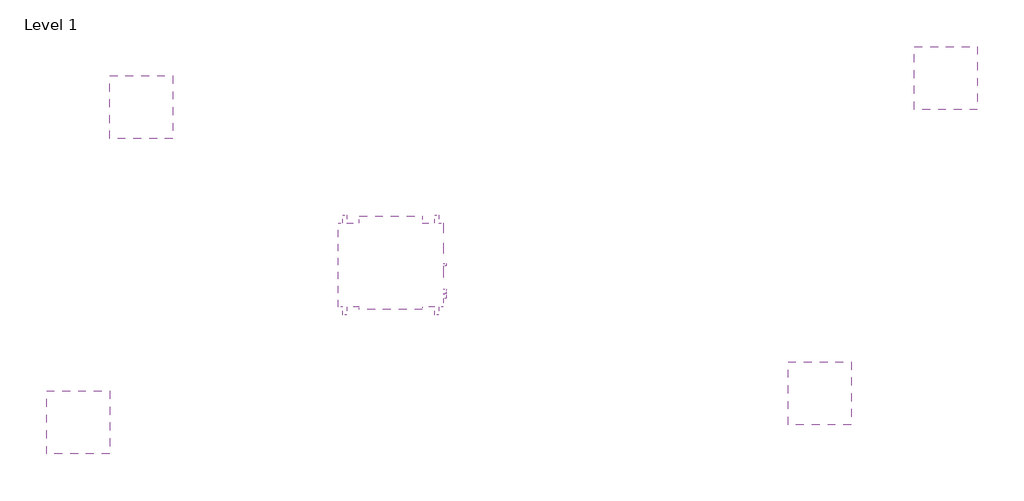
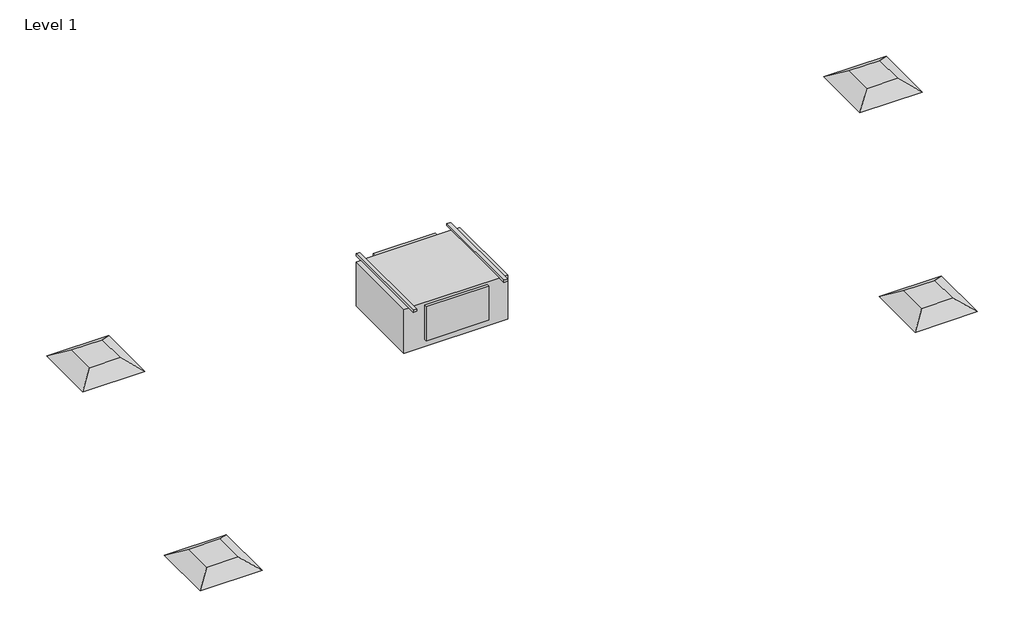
# One storey: 4 air terminals, 1 proxy.
"""IFC4 building model written with IfcOpenShell, lengths in millimetres."""

import ifcopenshell
import ifcopenshell.guid

model = None  # the IFC model being written
_history = None  # IfcOwnerHistory: only IFC2X3 demands one
_inside = {}  # id of a spatial element -> (the spatial element, [elements in it])
_under = {}  # id of a project, library or spatial element -> (it, [spatial elements below it])
_declared = {}  # id of a project -> (the project, [libraries it declares])
_typed = {}  # id of a type object -> (the type object, [elements of that type])
_made_of = {}  # id of a material, layer set ... -> (it, [elements and type objects made of it])


def new_model(schema):
    """Start an empty IFC model of exactly this schema.

    Asked for "IFC4X3", IfcOpenShell would pick the latest addendum, in which some entities
    have other attributes; the version numbers below select the first issue.
    IFC2X3 requires an IfcOwnerHistory on every rooted entity: one is made here for all.
    """
    global model, _history
    if schema == "IFC4X3":
        model = ifcopenshell.file(schema_version=(4, 3, 0, 0))
    else:
        model = ifcopenshell.file(schema=schema)
    _inside.clear()
    _under.clear()
    _declared.clear()
    _typed.clear()
    _made_of.clear()
    _history = None
    if model.schema == "IFC2X3":
        org = make("IfcOrganization", Name="unknown")
        user = make(
            "IfcPersonAndOrganization",
            ThePerson=make("IfcPerson", FamilyName="unknown"),
            TheOrganization=org,
        )
        app = make(
            "IfcApplication",
            ApplicationDeveloper=org,
            Version="unknown",
            ApplicationFullName="unknown",
            ApplicationIdentifier="unknown",
        )
        _history = make(
            "IfcOwnerHistory",
            OwningUser=user,
            OwningApplication=app,
            ChangeAction="ADDED",
            CreationDate=0,
        )
    return model


def make(cls, **values):
    """One entity of the class cls with the attributes given. An attribute that is None is left unset."""
    return model.create_entity(
        cls, **{name: value for name, value in values.items() if value is not None}
    )


def rooted(cls, **values):
    """An entity with a GlobalId (a new one), such as an element, a storey or a relation."""
    return make(cls, GlobalId=ifcopenshell.guid.new(), OwnerHistory=_history, **values)


def si_unit(unit_type, name, prefix=None):
    """IfcSIUnit, for example si_unit("LENGTHUNIT", "METRE", prefix="MILLI")."""
    return make("IfcSIUnit", UnitType=unit_type, Prefix=prefix, Name=name)


def assignment(units):
    """IfcUnitAssignment: the units of a project."""
    return None if units is None else make("IfcUnitAssignment", Units=units)


def point(xyz):
    """IfcCartesianPoint."""
    return None if xyz is None else make("IfcCartesianPoint", Coordinates=xyz)


def direction(xyz):
    """IfcDirection."""
    return None if xyz is None else make("IfcDirection", DirectionRatios=xyz)


def frame(location, z_axis=None, x_axis=None):
    """IfcAxis2Placement3D, a coordinate frame: its origin and axes. An axis left out is left unset."""
    return make(
        "IfcAxis2Placement3D",
        Location=point(location),
        Axis=direction(z_axis),
        RefDirection=direction(x_axis),
    )


def origin():
    """The frame at (0, 0, 0) with its axes left unset."""
    return frame((0.0, 0.0, 0.0))


def place(relative_to, where):
    """IfcLocalPlacement: puts the frame where relative to a parent placement (None: the world)."""
    return make(
        "IfcLocalPlacement", PlacementRelTo=relative_to, RelativePlacement=where
    )


def context(
    kind, dimensions, precision=None, world=None, true_north=None, identifier=None
):
    """IfcGeometricRepresentationContext, for example the 3D "Model" context."""
    return make(
        "IfcGeometricRepresentationContext",
        ContextIdentifier=identifier,
        ContextType=kind,
        CoordinateSpaceDimension=dimensions,
        Precision=precision,
        WorldCoordinateSystem=world,
        TrueNorth=true_north,
    )


def project(units=None, contexts=None):
    """IfcProject with its units and contexts."""
    return rooted(
        "IfcProject",
        Name="project",
        RepresentationContexts=contexts,
        UnitsInContext=assignment(units),
    )


def spatial(cls, under=None, at=None, **own):
    """A site, building, storey or space (cls), placed at a placement, below another one or the project."""
    s = rooted(cls, ObjectPlacement=at, **own)
    if under is not None:
        _under.setdefault(under.id(), (under, []))[1].append(s)
    return s


def circle_curve(where, radius):
    """IfcCircle in the frame where."""
    return make("IfcCircle", Position=where, Radius=radius)


def faces_of(points, faces, orient=None, outer=None):
    """IfcFace entities. A face is a list of loops; a loop is a list of indices into points, from 0.

    orient and outer hold one flag for each loop. By default every Orientation is true, the
    first loop of a face is its IfcFaceOuterBound and the others are IfcFaceBound.
    """
    made = []
    for i, loops in enumerate(faces):
        bounds = []
        for j, loop in enumerate(loops):
            is_outer = j == 0 if outer is None else outer[i][j]
            bounds.append(
                make(
                    "IfcFaceOuterBound" if is_outer else "IfcFaceBound",
                    Bound=make("IfcPolyLoop", Polygon=[points[k] for k in loop]),
                    Orientation=True if orient is None else orient[i][j],
                )
            )
        made.append(make("IfcFace", Bounds=bounds))
    return made


def faceted_brep(points, faces, orient=None, outer=None, voids=None):
    """IfcFacetedBrep: a solid bounded by flat faces; with voids (closed shells), ...WithVoids."""
    shared = [point(p) for p in points]
    hull = make("IfcClosedShell", CfsFaces=faces_of(shared, faces, orient, outer))
    if voids is None:
        return make("IfcFacetedBrep", Outer=hull)
    return make(
        "IfcFacetedBrepWithVoids",
        Outer=hull,
        Voids=[
            make(cls, CfsFaces=faces_of(shared, fs, o, b)) for cls, fs, o, b in voids
        ],
    )


def shape(context_of_items, identifier, shape_type, items):
    """IfcShapeRepresentation: the items that make up one representation, for example the "Body"."""
    return make(
        "IfcShapeRepresentation",
        ContextOfItems=context_of_items,
        RepresentationIdentifier=identifier,
        RepresentationType=shape_type,
        Items=items,
    )


def source(mapping_origin, context_of_items, identifier, shape_type, items):
    """IfcRepresentationMap: a shape defined once, which mapped items show again and again."""
    return make(
        "IfcRepresentationMap",
        MappingOrigin=mapping_origin,
        MappedRepresentation=shape(context_of_items, identifier, shape_type, items),
    )


def transform(
    local_origin,
    x_axis=None,
    y_axis=None,
    z_axis=None,
    scale=None,
    scale2=None,
    scale3=None,
    uniform=True,
):
    """IfcCartesianTransformationOperator3D, or its non-uniform kind. x_axis, y_axis, z_axis: its Axis1, 2, 3."""
    if uniform:
        return make(
            "IfcCartesianTransformationOperator3D",
            Axis1=direction(x_axis),
            Axis2=direction(y_axis),
            LocalOrigin=point(local_origin),
            Scale=scale,
            Axis3=direction(z_axis),
        )
    return make(
        "IfcCartesianTransformationOperator3DnonUniform",
        Axis1=direction(x_axis),
        Axis2=direction(y_axis),
        LocalOrigin=point(local_origin),
        Scale=scale,
        Axis3=direction(z_axis),
        Scale2=scale2,
        Scale3=scale3,
    )


def mapped(mapping_source, mapping_target):
    """IfcMappedItem: shows the shape of a source again, moved by a transform."""
    return make(
        "IfcMappedItem", MappingSource=mapping_source, MappingTarget=mapping_target
    )


def made_of(thing, what):
    """Note that an element or type object is made of a material, layer set ...; save() writes the relation."""
    if what is not None:
        _made_of.setdefault(what.id(), (what, []))[1].append(thing)
    return thing


def element(
    cls,
    number,
    at=None,
    inside=None,
    cuts=None,
    type_object=None,
    material=None,
    context=None,
    identifier="Body",
    shape_type=None,
    held_by="IfcProductDefinitionShape",
    body=None,
    shapes=None,
    **own,
):
    """One element of the class cls, such as IfcWall. Its Tag is "e" and its number.

    at: its placement. inside: the storey or other place that contains it. cuts: it is an
    opening in that element (IfcRelVoidsElement). A single representation is given by context,
    identifier, shape_type and body (its items); several are given by shapes. held_by: the class
    of the entity that holds the representations. save() writes the other relations.
    """
    e = rooted(cls, Tag="e%d" % number, ObjectPlacement=at, **own)
    if body is not None:
        shapes = [shape(context, identifier, shape_type, body)]
    if shapes is not None:
        e.Representation = make(held_by, Representations=shapes)
    if inside is not None:
        _inside.setdefault(inside.id(), (inside, []))[1].append(e)
    if cuts is not None:
        rooted(
            "IfcRelVoidsElement", RelatingBuildingElement=cuts, RelatedOpeningElement=e
        )
    if type_object is not None:
        _typed.setdefault(type_object.id(), (type_object, []))[1].append(e)
    return made_of(e, material)


def aggregate(whole, parts):
    """IfcRelAggregates: a whole, such as a stair, and the parts it consists of."""
    return rooted("IfcRelAggregates", RelatingObject=whole, RelatedObjects=parts)


def save(model, path):
    """Write the relations noted so far, then the file.

    IfcRelAggregates (storeys below a building ...), IfcRelContainedInSpatialStructure (elements
    in a storey), IfcRelDefinesByType, IfcRelAssociatesMaterial and IfcRelDeclares: one each for
    every whole, place, type object, material and project.
    """
    for whole, parts in _under.values():
        aggregate(whole, parts)
    for where, things in _inside.values():
        rooted(
            "IfcRelContainedInSpatialStructure",
            RelatedElements=things,
            RelatingStructure=where,
        )
    for kind, things in _typed.values():
        rooted("IfcRelDefinesByType", RelatedObjects=things, RelatingType=kind)
    for what, things in _made_of.values():
        rooted("IfcRelAssociatesMaterial", RelatedObjects=things, RelatingMaterial=what)
    for by, libraries in _declared.values():
        rooted("IfcRelDeclares", RelatingContext=by, RelatedDefinitions=libraries)
    model.write(path)


def plane_surface(at):
    """IfcPlane: the flat surface through the origin of the frame at, square to its z axis."""
    return make("IfcPlane", Position=at)


def cylinder_surface(at, radius):
    """IfcCylindricalSurface: all points at the distance radius from the z axis of the frame at."""
    return make("IfcCylindricalSurface", Position=at, Radius=radius)


def advanced_brep(points, edges, surfaces, faces):
    """IfcAdvancedBrep: a solid bounded by faces that lie on surfaces and meet in shared edges.

    An edge is (start, end): straight between two places in points (the first is 0);
    or (start, end, curve); or (start, end, curve, False) where it runs against its curve.
    A face is (place in surfaces, loops), or (place, loops, False) where it looks against
    its surface's normal. A loop lists edges by number (the first is 1), with a minus sign
    where the edge is run from its end to its start. The first loop is the outer one.
    """
    corners = [point(p) for p in points]
    vertices = [make("IfcVertexPoint", VertexGeometry=c) for c in corners]
    made = []
    for start, end, *more in edges:
        made.append(
            make(
                "IfcEdgeCurve",
                EdgeStart=vertices[start],
                EdgeEnd=vertices[end],
                EdgeGeometry=more[0] if more else make("IfcPolyline", Points=[corners[start], corners[end]]),
                SameSense=more[1] if len(more) > 1 else True,
            )
        )
    hull = []
    for where, loops, *sense in faces:
        bounds = []
        for j, loop in enumerate(loops):
            ring = [make("IfcOrientedEdge", EdgeElement=made[abs(k) - 1], Orientation=k > 0) for k in loop]
            bounds.append(
                make(
                    "IfcFaceOuterBound" if j == 0 else "IfcFaceBound",
                    Bound=make("IfcEdgeLoop", EdgeList=ring),
                    Orientation=True,
                )
            )
        hull.append(make("IfcAdvancedFace", Bounds=bounds, FaceSurface=surfaces[where], SameSense=sense[0] if sense else True))
    return make("IfcAdvancedBrep", Outer=make("IfcClosedShell", CfsFaces=hull))


def return_diffuser_24_x_24_face_12_x_12_connection_ff543d60(model_context):
    return source(origin(), model_context, "Body", "Brep", [
        faceted_brep([(152.4, 152.4, 101.6), (-152.4, 152.4, 101.6), (-152.4, -152.4, 101.6), (152.4, -152.4, 101.6), (304.8, 304.8, 0.0), (304.8, -304.8, 0.0), (-304.8, -304.8, 0.0), (-304.8, 304.8, 0.0)], [[[0, 1, 2, 3]], [[4, 5, 6, 7]], [[4, 7, 1, 0]], [[7, 6, 2, 1]], [[6, 5, 3, 2]], [[5, 4, 0, 3]]]),
    ])


def return_diffuser_24_x_24_face_12_x_12_connection_0d699246(model_context):
    return source(origin(), model_context, "Body", "Brep", [
        faceted_brep([(152.4, -152.4, 101.6), (152.4, 152.4, 101.6), (-152.4, 152.4, 101.6), (-152.4, -152.4, 101.6), (304.8, -304.8, 0.0), (-304.8, -304.8, 0.0), (-304.8, 304.8, 0.0), (304.8, 304.8, 0.0)], [[[0, 1, 2, 3]], [[4, 5, 6, 7]], [[4, 0, 3, 5]], [[5, 3, 2, 6]], [[6, 2, 1, 7]], [[7, 1, 0, 4]]]),
    ])


def fan_coil_unit_ceiling_ducted_chw_1000_cfm_fb4dfb87(model_context):
    return source(origin(), model_context, "Body", "AdvancedBrep", [
        advanced_brep(
        [(82.55, 889.0, 479.425), (44.45, 889.0, 479.425), (44.45, -76.2, 479.425), (82.55, -76.2, 479.425), (82.55, -76.2, 457.2), (44.45, -76.2, 457.2), (44.45, 0.0, 457.2), (82.55, 0.0, 457.2), (44.45, 889.0, 457.2), (82.55, 889.0, 457.2), (82.55, 812.8, 457.2), (44.45, 812.8, 457.2), (971.55, 889.0, 479.425), (933.45, 889.0, 479.425), (933.45, -76.2, 479.425), (971.55, -76.2, 479.425), (971.55, -76.2, 457.2), (933.45, -76.2, 457.2), (933.45, 0.0, 457.2), (971.55, 0.0, 457.2), (933.45, 889.0, 457.2), (971.55, 889.0, 457.2), (971.55, 812.8, 457.2), (933.45, 812.8, 457.2), (1041.4, 130.175, 381.0), (1041.4, 174.625, 381.0), (1016.0, 130.175, 381.0), (1016.0, 174.625, 381.0), (1041.4, 79.375, 101.6), (1041.4, 123.825, 101.6), (1016.0, 79.375, 101.6), (1016.0, 123.825, 101.6), (1041.4, 395.2875, 38.1), (1041.4, 417.5125, 38.1), (1016.0, 395.2875, 38.1), (1016.0, 417.5125, 38.1), (0.0, 812.8, 457.2), (0.0, 0.0, 457.2), (1016.0, 0.0, 457.2), (1016.0, 812.8, 457.2), (1016.0, 812.8, 0.0), (1016.0, 0.0, 0.0), (0.0, 0.0, 0.0), (0.0, 812.8, 0.0), (812.8, 812.8, 431.8), (203.2, 812.8, 431.8), (203.2, 812.8, 76.2), (812.8, 812.8, 76.2), (203.2, 0.0, 431.8), (812.8, 0.0, 431.8), (812.8, 0.0, 76.2), (203.2, 0.0, 76.2), (812.8, 876.3, 431.8), (203.2, 876.3, 431.8), (812.8, 876.3, 76.2), (203.2, 876.3, 76.2), (203.2, -25.4, 431.8), (812.8, -25.4, 431.8), (812.8, -25.4, 76.2), (203.2, -25.4, 76.2)],
        [
            (0, 1),
            (1, 2),
            (2, 3),
            (3, 0),
            (4, 5),
            (5, 6),
            (6, 7),
            (7, 4),
            (8, 9),
            (9, 10),
            (10, 11),
            (11, 8),
            (0, 9),
            (8, 1),
            (11, 6),
            (5, 2),
            (4, 3),
            (7, 10),
            (12, 13),
            (13, 14),
            (14, 15),
            (15, 12),
            (16, 17),
            (17, 18),
            (18, 19),
            (19, 16),
            (20, 21),
            (21, 22),
            (22, 23),
            (23, 20),
            (12, 21),
            (20, 13),
            (23, 18),
            (17, 14),
            (16, 15),
            (19, 22),
            (24, 25, circle_curve(frame((1041.4, 152.4, 381.0), z_axis=(1.0, 0.0, 0.0), x_axis=(0.0, 1.0, 0.0)), 22.225)),
            (25, 24, circle_curve(frame((1041.4, 152.4, 381.0), z_axis=(1.0, 0.0, 0.0), x_axis=(0.0, 1.0, 0.0)), 22.225)),
            (24, 26),
            (26, 27, circle_curve(frame((1016.0, 152.4, 381.0), z_axis=(1.0, 0.0, 0.0), x_axis=(0.0, 1.0, 0.0)), 22.225)),
            (27, 25),
            (27, 26, circle_curve(frame((1016.0, 152.4, 381.0), z_axis=(1.0, 0.0, 0.0), x_axis=(0.0, 1.0, 0.0)), 22.225)),
            (28, 29, circle_curve(frame((1041.4, 101.6, 101.6), z_axis=(1.0, 0.0, 0.0), x_axis=(0.0, 1.0, 0.0)), 22.225)),
            (29, 28, circle_curve(frame((1041.4, 101.6, 101.6), z_axis=(1.0, 0.0, 0.0), x_axis=(0.0, 1.0, 0.0)), 22.225)),
            (28, 30),
            (30, 31, circle_curve(frame((1016.0, 101.6, 101.6), z_axis=(1.0, 0.0, 0.0), x_axis=(0.0, 1.0, 0.0)), 22.225)),
            (31, 29),
            (31, 30, circle_curve(frame((1016.0, 101.6, 101.6), z_axis=(1.0, 0.0, 0.0), x_axis=(0.0, 1.0, 0.0)), 22.225)),
            (32, 33, circle_curve(frame((1041.4, 406.4, 38.1), z_axis=(1.0, 0.0, 0.0), x_axis=(0.0, 1.0, 0.0)), 11.1125)),
            (33, 32, circle_curve(frame((1041.4, 406.4, 38.1), z_axis=(1.0, 0.0, 0.0), x_axis=(0.0, 1.0, 0.0)), 11.1125)),
            (32, 34),
            (34, 35, circle_curve(frame((1016.0, 406.4, 38.1), z_axis=(1.0, 0.0, 0.0), x_axis=(0.0, 1.0, 0.0)), 11.1125)),
            (35, 33),
            (35, 34, circle_curve(frame((1016.0, 406.4, 38.1), z_axis=(1.0, 0.0, 0.0), x_axis=(0.0, 1.0, 0.0)), 11.1125)),
            (36, 37),
            (37, 6),
            (11, 36),
            (38, 39),
            (39, 22),
            (19, 38),
            (23, 10),
            (7, 18),
            (40, 41),
            (41, 42),
            (42, 43),
            (43, 40),
            (43, 36),
            (39, 40),
            (44, 45),
            (45, 46),
            (46, 47),
            (47, 44),
            (42, 37),
            (41, 38),
            (48, 49),
            (49, 50),
            (50, 51),
            (51, 48),
            (52, 53),
            (53, 45),
            (44, 52),
            (54, 47),
            (46, 55),
            (55, 54),
            (52, 54),
            (55, 53),
            (48, 56),
            (56, 57),
            (57, 49),
            (50, 58),
            (58, 59),
            (59, 51),
            (59, 56),
            (58, 57),
        ],
        [
            plane_surface(frame((44.45, 889.0, 479.425), z_axis=(0.0, 0.0, 1.0), x_axis=(-1.0, 0.0, 0.0))),
            plane_surface(frame((44.45, 889.0, 457.2), z_axis=(0.0, 0.0, -1.0), x_axis=(1.0, 0.0, 0.0))),
            plane_surface(frame((82.55, 889.0, 479.425), z_axis=(0.0, 1.0, 0.0), x_axis=(0.0, 0.0, -1.0))),
            plane_surface(frame((44.45, 889.0, 479.425), z_axis=(-1.0, 0.0, 0.0), x_axis=(0.0, 0.0, -1.0))),
            plane_surface(frame((44.45, -76.2, 479.425), z_axis=(0.0, -1.0, 0.0), x_axis=(0.0, 0.0, -1.0))),
            plane_surface(frame((82.55, -76.2, 479.425), z_axis=(1.0, 0.0, 0.0), x_axis=(0.0, 0.0, -1.0))),
            plane_surface(frame((933.45, 889.0, 479.425), z_axis=(0.0, 0.0, 1.0), x_axis=(-1.0, 0.0, 0.0))),
            plane_surface(frame((933.45, 889.0, 457.2), z_axis=(0.0, 0.0, -1.0), x_axis=(1.0, 0.0, 0.0))),
            plane_surface(frame((971.55, 889.0, 479.425), z_axis=(0.0, 1.0, 0.0), x_axis=(0.0, 0.0, -1.0))),
            plane_surface(frame((933.45, 889.0, 479.425), z_axis=(-1.0, 0.0, 0.0), x_axis=(0.0, 0.0, -1.0))),
            plane_surface(frame((933.45, -76.2, 479.425), z_axis=(0.0, -1.0, 0.0), x_axis=(0.0, 0.0, -1.0))),
            plane_surface(frame((971.55, -76.2, 479.425), z_axis=(1.0, 0.0, 0.0), x_axis=(0.0, 0.0, -1.0))),
            plane_surface(frame((1041.4, 174.625, 381.0), z_axis=(1.0, 0.0, 0.0), x_axis=(0.0, 0.0, 1.0))),
            cylinder_surface(frame((1016.0, 152.4, 381.0), z_axis=(1.0, 0.0, 0.0), x_axis=(0.0, 1.0, 0.0)), 22.225),
            plane_surface(frame((1041.4, 123.825, 101.6), z_axis=(1.0, 0.0, 0.0), x_axis=(0.0, 0.0, 1.0))),
            cylinder_surface(frame((1016.0, 101.6, 101.6), z_axis=(1.0, 0.0, 0.0), x_axis=(0.0, 1.0, 0.0)), 22.225),
            plane_surface(frame((1041.4, 417.5125, 38.1), z_axis=(1.0, 0.0, 0.0), x_axis=(0.0, 0.0, 1.0))),
            cylinder_surface(frame((1016.0, 406.4, 38.1), z_axis=(1.0, 0.0, 0.0), x_axis=(0.0, 1.0, 0.0)), 11.1125),
            plane_surface(frame((0.0, 812.8, 457.2), z_axis=(0.0, 0.0, 1.0), x_axis=(-1.0, 0.0, 0.0))),
            plane_surface(frame((0.0, 812.8, 0.0), z_axis=(0.0, 0.0, -1.0), x_axis=(1.0, 0.0, 0.0))),
            plane_surface(frame((1016.0, 812.8, 457.2), z_axis=(0.0, 1.0, 0.0), x_axis=(0.0, 0.0, -1.0))),
            plane_surface(frame((0.0, 812.8, 457.2), z_axis=(-1.0, 0.0, 0.0), x_axis=(0.0, 0.0, -1.0))),
            plane_surface(frame((0.0, 0.0, 457.2), z_axis=(0.0, -1.0, 0.0), x_axis=(0.0, 0.0, -1.0))),
            plane_surface(frame((1016.0, 0.0, 457.2), z_axis=(1.0, 0.0, 0.0), x_axis=(0.0, 0.0, -1.0))),
            plane_surface(frame((203.2, 876.3, 431.8), z_axis=(0.0, 0.0, 1.0), x_axis=(-1.0, 0.0, 0.0))),
            plane_surface(frame((203.2, 876.3, 76.2), z_axis=(0.0, 0.0, -1.0), x_axis=(1.0, 0.0, 0.0))),
            plane_surface(frame((812.8, 876.3, 431.8), z_axis=(0.0, 1.0, 0.0), x_axis=(0.0, 0.0, -1.0))),
            plane_surface(frame((203.2, 876.3, 431.8), z_axis=(-1.0, 0.0, 0.0), x_axis=(0.0, 0.0, -1.0))),
            plane_surface(frame((812.8, 812.8, 431.8), z_axis=(1.0, 0.0, 0.0), x_axis=(0.0, 0.0, -1.0))),
            plane_surface(frame((203.2, 0.0, 431.8), z_axis=(0.0, 0.0, 1.0), x_axis=(-1.0, 0.0, 0.0))),
            plane_surface(frame((203.2, 0.0, 76.2), z_axis=(0.0, 0.0, -1.0), x_axis=(1.0, 0.0, 0.0))),
            plane_surface(frame((203.2, 0.0, 431.8), z_axis=(-1.0, 0.0, 0.0), x_axis=(0.0, 0.0, -1.0))),
            plane_surface(frame((203.2, -25.4, 431.8), z_axis=(0.0, -1.0, 0.0), x_axis=(0.0, 0.0, -1.0))),
            plane_surface(frame((812.8, -25.4, 431.8), z_axis=(1.0, 0.0, 0.0), x_axis=(0.0, 0.0, -1.0))),
        ],
        [
            (0, [[1, 2, 3, 4]]),
            (1, [[5, 6, 7, 8]]),
            (1, [[9, 10, 11, 12]]),
            (2, [[-1, 13, -9, 14]]),
            (3, [[-2, -14, -12, 15, -6, 16]]),
            (4, [[-3, -16, -5, 17]]),
            (5, [[-4, -17, -8, 18, -10, -13]]),
            (6, [[19, 20, 21, 22]]),
            (7, [[23, 24, 25, 26]]),
            (7, [[27, 28, 29, 30]]),
            (8, [[-19, 31, -27, 32]]),
            (9, [[-20, -32, -30, 33, -24, 34]]),
            (10, [[-21, -34, -23, 35]]),
            (11, [[-22, -35, -26, 36, -28, -31]]),
            (12, [[37, 38]]),
            (13, [[-37, 39, 40, 41]]),
            (13, [[-38, -41, 42, -39]]),
            (14, [[43, 44]]),
            (15, [[-43, 45, 46, 47]]),
            (15, [[-44, -47, 48, -45]]),
            (16, [[49, 50]]),
            (17, [[-49, 51, 52, 53]]),
            (17, [[-50, -53, 54, -51]]),
            (18, [[55, 56, -15, 57]]),
            (18, [[58, 59, -36, 60]]),
            (18, [[61, -18, 62, -33]]),
            (19, [[63, 64, 65, 66]]),
            (20, [[-66, 67, -57, -11, -61, -29, -59, 68], [69, 70, 71, 72]]),
            (21, [[-55, -67, -65, 73]]),
            (22, [[-64, 74, -60, -25, -62, -7, -56, -73], [75, 76, 77, 78]]),
            (23, [[-58, -74, -63, -68], [-40, -42], [-46, -48], [-52, -54]]),
            (24, [[79, 80, -69, 81]]),
            (25, [[82, -71, 83, 84]]),
            (26, [[-79, 85, -84, 86]]),
            (27, [[-80, -86, -83, -70]]),
            (28, [[-81, -72, -82, -85]]),
            (29, [[87, 88, 89, -75]]),
            (30, [[90, 91, 92, -77]]),
            (31, [[-87, -78, -92, 93]]),
            (32, [[-88, -93, -91, 94]]),
            (33, [[-89, -94, -90, -76]]),
        ],
    ),
    ])


model = new_model("IFC4")

# Units and contexts
model_context = context("Model", 3, world=origin())
ifc_project = project(units=[si_unit("LENGTHUNIT", "METRE", prefix="MILLI")], contexts=[model_context])

# Site, building, storey
site = spatial("IfcSite", under=ifc_project)
building = spatial("IfcBuilding", under=site)
storey = spatial("IfcBuildingStorey", under=building, Name="Level 1", Elevation=0.0)

# Air terminals
placement = place(None, origin())
return_diffuser_24_x_24_face_12_x_12_connection_shape = return_diffuser_24_x_24_face_12_x_12_connection_ff543d60(model_context)
element("IfcAirTerminal", 1, ObjectType="Return Diffuser : 24 x 24 Face 12 x 12 Connection", at=placement, inside=storey, context=model_context, shape_type="MappedRepresentation", body=[
    mapped(return_diffuser_24_x_24_face_12_x_12_connection_shape, transform((6860.137245, 2784.3237109, 2438.4), x_axis=(1.0, 0.0, 0.0), y_axis=(0.0, 1.0, 0.0), z_axis=(0.0, 0.0, 1.0))),
])
return_diffuser_24_x_24_face_12_x_12_connection_2_shape = return_diffuser_24_x_24_face_12_x_12_connection_0d699246(model_context)
element("IfcAirTerminal", 2, ObjectType="Return Diffuser : 24 x 24 Face 12 x 12 Connection", at=placement, inside=storey, context=model_context, shape_type="MappedRepresentation", body=[
    mapped(return_diffuser_24_x_24_face_12_x_12_connection_2_shape, transform((-911.2336862, 2502.3071422, 2438.4), x_axis=(-1.0, 0.0, 0.0), y_axis=(0.0, -1.0, 0.0), z_axis=(0.0, 0.0, 1.0))),
])
element("IfcAirTerminal", 3, ObjectType="Supply Diffuser : 24 x 24 Face 12 x 12 Connection", at=placement, inside=storey, context=model_context, shape_type="MappedRepresentation", body=[
    mapped(return_diffuser_24_x_24_face_12_x_12_connection_shape, transform((5640.937245, -263.6762891, 2438.4), x_axis=(1.0, 0.0, 0.0), y_axis=(0.0, 1.0, 0.0), z_axis=(0.0, 0.0, 1.0))),
])
element("IfcAirTerminal", 4, ObjectType="Supply Diffuser : 24 x 24 Face 12 x 12 Connection", at=placement, inside=storey, context=model_context, shape_type="MappedRepresentation", body=[
    mapped(return_diffuser_24_x_24_face_12_x_12_connection_2_shape, transform((-1520.8336862, -545.6928578, 2438.4), x_axis=(-1.0, 0.0, 0.0), y_axis=(0.0, -1.0, 0.0), z_axis=(0.0, 0.0, 1.0))),
])

# Proxy
fan_coil_unit_ceiling_ducted_chw_1000_cfm_shape = fan_coil_unit_ceiling_ducted_chw_1000_cfm_fb4dfb87(model_context)
element("IfcBuildingElementProxy", 5, Name="Fan Coil Unit - Ceiling Ducted - CHW : 1000 CFM", ObjectType="Fan Coil Unit - Ceiling Ducted - CHW : 1000 CFM", at=placement, inside=storey, context=model_context, shape_type="MappedRepresentation", body=[
    mapped(fan_coil_unit_ceiling_ducted_chw_1000_cfm_shape, transform((991.7534683, 571.9071422, 3048.0), x_axis=(1.0000000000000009, 0.0, 0.0), y_axis=(0.0, 1.0000000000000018, 0.0), z_axis=(0.0, 0.0, 1.0000000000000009))),
])

save(model, "model.ifc")
